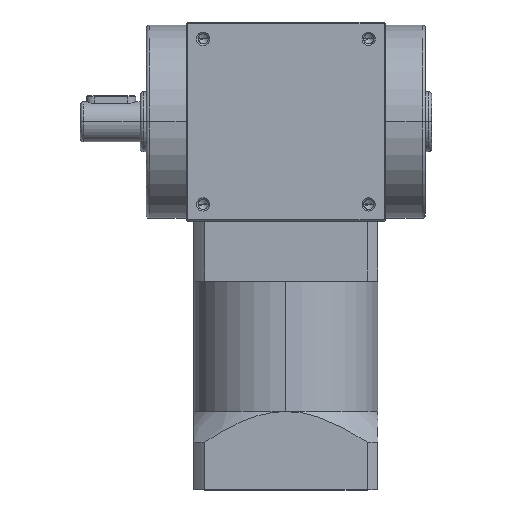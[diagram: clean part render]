
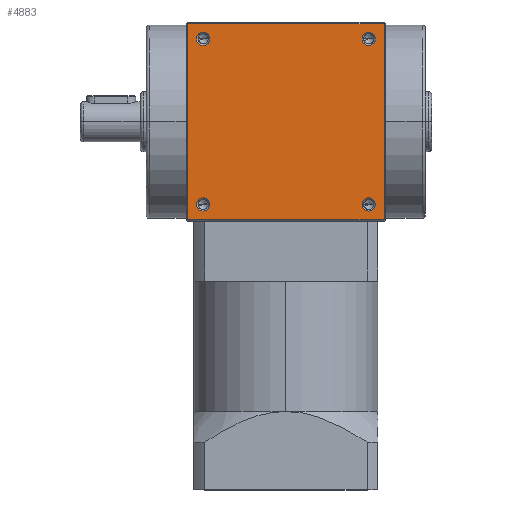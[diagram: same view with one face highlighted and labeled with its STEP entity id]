
A CAD part, top view. The second image highlights one B-rep face of the part: STEP entity #4883.
In plain terms, the highlighted planar face has unit normal (0, 0, 1).
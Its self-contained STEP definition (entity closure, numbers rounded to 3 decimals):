
#27 = VECTOR ( 'NONE', #2899, 1000. ) ;
#30 = VERTEX_POINT ( 'NONE', #4304 ) ;
#47 = ORIENTED_EDGE ( 'NONE', *, *, #918, .T. ) ;
#69 = DIRECTION ( 'NONE',  ( 0., 0., -1. ) ) ;
#98 = FACE_BOUND ( 'NONE', #6766, .T. ) ;
#160 = ORIENTED_EDGE ( 'NONE', *, *, #970, .T. ) ;
#177 = EDGE_LOOP ( 'NONE', ( #8125, #6206 ) ) ;
#236 = VERTEX_POINT ( 'NONE', #2188 ) ;
#259 = VERTEX_POINT ( 'NONE', #2804 ) ;
#307 = ORIENTED_EDGE ( 'NONE', *, *, #7501, .T. ) ;
#395 = CARTESIAN_POINT ( 'NONE',  ( -32., -32., 32.5 ) ) ;
#405 = CIRCLE ( 'NONE', #1392, 2.15 ) ;
#520 = CARTESIAN_POINT ( 'NONE',  ( -27., -27., 32.5 ) ) ;
#541 = EDGE_CURVE ( 'NONE', #4626, #6484, #4183, .T. ) ;
#704 = DIRECTION ( 'NONE',  ( -1., 0., 0. ) ) ;
#864 = CARTESIAN_POINT ( 'NONE',  ( -29.15, 27., 32.5 ) ) ;
#918 = EDGE_CURVE ( 'NONE', #259, #4297, #2163, .T. ) ;
#970 = EDGE_CURVE ( 'NONE', #3444, #9064, #1490, .T. ) ;
#990 = CIRCLE ( 'NONE', #7219, 2.15 ) ;
#1122 = LINE ( 'NONE', #5073, #7571 ) ;
#1159 = DIRECTION ( 'NONE',  ( 0., 0., -1. ) ) ;
#1292 = ORIENTED_EDGE ( 'NONE', *, *, #2593, .T. ) ;
#1392 = AXIS2_PLACEMENT_3D ( 'NONE', #2172, #69, #5076 ) ;
#1408 = CARTESIAN_POINT ( 'NONE',  ( 0., 32., 32.5 ) ) ;
#1410 = EDGE_CURVE ( 'NONE', #9064, #3444, #9364, .T. ) ;
#1487 = PLANE ( 'NONE',  #4543 ) ;
#1490 = CIRCLE ( 'NONE', #2907, 2.15 ) ;
#1552 = LINE ( 'NONE', #6611, #5014 ) ;
#1609 = ORIENTED_EDGE ( 'NONE', *, *, #5226, .T. ) ;
#1614 = VECTOR ( 'NONE', #8889, 1000. ) ;
#1972 = DIRECTION ( 'NONE',  ( 0., 0., -1. ) ) ;
#2002 = DIRECTION ( 'NONE',  ( -1., 0., 0. ) ) ;
#2124 = DIRECTION ( 'NONE',  ( 0., 0., -1. ) ) ;
#2144 = VERTEX_POINT ( 'NONE', #2271 ) ;
#2163 = LINE ( 'NONE', #1408, #27 ) ;
#2172 = CARTESIAN_POINT ( 'NONE',  ( -27., -27., 32.5 ) ) ;
#2188 = CARTESIAN_POINT ( 'NONE',  ( -29.15, -27., 32.5 ) ) ;
#2219 = FACE_BOUND ( 'NONE', #177, .T. ) ;
#2271 = CARTESIAN_POINT ( 'NONE',  ( 32., -32., 32.5 ) ) ;
#2593 = EDGE_CURVE ( 'NONE', #3849, #236, #405, .T. ) ;
#2608 = DIRECTION ( 'NONE',  ( 0., 0., -1. ) ) ;
#2804 = CARTESIAN_POINT ( 'NONE',  ( 32., 32., 32.5 ) ) ;
#2880 = CARTESIAN_POINT ( 'NONE',  ( 0., 0., 32.5 ) ) ;
#2899 = DIRECTION ( 'NONE',  ( -1., 0., 0. ) ) ;
#2907 = AXIS2_PLACEMENT_3D ( 'NONE', #7832, #2124, #704 ) ;
#2977 = CARTESIAN_POINT ( 'NONE',  ( -27., 27., 32.5 ) ) ;
#3169 = CARTESIAN_POINT ( 'NONE',  ( 24.85, -27., 32.5 ) ) ;
#3194 = CARTESIAN_POINT ( 'NONE',  ( 27., 27., 32.5 ) ) ;
#3198 = DIRECTION ( 'NONE',  ( 0., 0., -1. ) ) ;
#3251 = DIRECTION ( 'NONE',  ( -1., 0., 0. ) ) ;
#3444 = VERTEX_POINT ( 'NONE', #864 ) ;
#3666 = DIRECTION ( 'NONE',  ( 0., 0., -1. ) ) ;
#3849 = VERTEX_POINT ( 'NONE', #7448 ) ;
#3919 = CARTESIAN_POINT ( 'NONE',  ( 29.15, -27., 32.5 ) ) ;
#3943 = DIRECTION ( 'NONE',  ( 0., 0., -1. ) ) ;
#3962 = EDGE_CURVE ( 'NONE', #30, #6295, #6762, .T. ) ;
#4055 = LINE ( 'NONE', #7869, #1614 ) ;
#4094 = AXIS2_PLACEMENT_3D ( 'NONE', #3194, #3943, #6147 ) ;
#4183 = CIRCLE ( 'NONE', #7988, 2.15 ) ;
#4242 = CARTESIAN_POINT ( 'NONE',  ( 29.15, 27., 32.5 ) ) ;
#4297 = VERTEX_POINT ( 'NONE', #8060 ) ;
#4304 = CARTESIAN_POINT ( 'NONE',  ( 24.85, 27., 32.5 ) ) ;
#4543 = AXIS2_PLACEMENT_3D ( 'NONE', #2880, #3666, #8731 ) ;
#4626 = VERTEX_POINT ( 'NONE', #3919 ) ;
#4701 = EDGE_LOOP ( 'NONE', ( #7461, #7698, #1609, #47 ) ) ;
#4883 = ADVANCED_FACE ( 'NONE', ( #7643, #98, #2219, #7544, #5594 ), #1487, .F. ) ;
#4900 = ORIENTED_EDGE ( 'NONE', *, *, #8890, .T. ) ;
#5014 = VECTOR ( 'NONE', #8865, 1000. ) ;
#5073 = CARTESIAN_POINT ( 'NONE',  ( 32., 0., 32.5 ) ) ;
#5076 = DIRECTION ( 'NONE',  ( -1., 0., 0. ) ) ;
#5226 = EDGE_CURVE ( 'NONE', #2144, #259, #1122, .T. ) ;
#5549 = VERTEX_POINT ( 'NONE', #395 ) ;
#5594 = FACE_OUTER_BOUND ( 'NONE', #4701, .T. ) ;
#5613 = CARTESIAN_POINT ( 'NONE',  ( -24.85, 27., 32.5 ) ) ;
#5890 = AXIS2_PLACEMENT_3D ( 'NONE', #520, #1159, #2002 ) ;
#6031 = CARTESIAN_POINT ( 'NONE',  ( 27., -27., 32.5 ) ) ;
#6147 = DIRECTION ( 'NONE',  ( -1., 0., 0. ) ) ;
#6206 = ORIENTED_EDGE ( 'NONE', *, *, #3962, .T. ) ;
#6295 = VERTEX_POINT ( 'NONE', #4242 ) ;
#6449 = EDGE_CURVE ( 'NONE', #5549, #2144, #1552, .T. ) ;
#6484 = VERTEX_POINT ( 'NONE', #3169 ) ;
#6576 = EDGE_CURVE ( 'NONE', #6295, #30, #990, .T. ) ;
#6611 = CARTESIAN_POINT ( 'NONE',  ( 0., -32., 32.5 ) ) ;
#6641 = DIRECTION ( 'NONE',  ( -1., 0., 0. ) ) ;
#6712 = EDGE_CURVE ( 'NONE', #4297, #5549, #4055, .T. ) ;
#6762 = CIRCLE ( 'NONE', #4094, 2.15 ) ;
#6766 = EDGE_LOOP ( 'NONE', ( #1292, #4900 ) ) ;
#6899 = EDGE_LOOP ( 'NONE', ( #7254, #307 ) ) ;
#6980 = DIRECTION ( 'NONE',  ( -1., 0., 0. ) ) ;
#7148 = AXIS2_PLACEMENT_3D ( 'NONE', #2977, #7365, #6641 ) ;
#7219 = AXIS2_PLACEMENT_3D ( 'NONE', #7652, #2608, #3251 ) ;
#7254 = ORIENTED_EDGE ( 'NONE', *, *, #541, .T. ) ;
#7365 = DIRECTION ( 'NONE',  ( 0., 0., -1. ) ) ;
#7448 = CARTESIAN_POINT ( 'NONE',  ( -24.85, -27., 32.5 ) ) ;
#7461 = ORIENTED_EDGE ( 'NONE', *, *, #6712, .T. ) ;
#7501 = EDGE_CURVE ( 'NONE', #6484, #4626, #8185, .T. ) ;
#7544 = FACE_BOUND ( 'NONE', #7803, .T. ) ;
#7571 = VECTOR ( 'NONE', #8823, 1000. ) ;
#7643 = FACE_BOUND ( 'NONE', #6899, .T. ) ;
#7652 = CARTESIAN_POINT ( 'NONE',  ( 27., 27., 32.5 ) ) ;
#7698 = ORIENTED_EDGE ( 'NONE', *, *, #6449, .T. ) ;
#7803 = EDGE_LOOP ( 'NONE', ( #9149, #160 ) ) ;
#7832 = CARTESIAN_POINT ( 'NONE',  ( -27., 27., 32.5 ) ) ;
#7869 = CARTESIAN_POINT ( 'NONE',  ( -32., 0., 32.5 ) ) ;
#7988 = AXIS2_PLACEMENT_3D ( 'NONE', #9161, #1972, #6980 ) ;
#7995 = AXIS2_PLACEMENT_3D ( 'NONE', #6031, #3198, #8898 ) ;
#8060 = CARTESIAN_POINT ( 'NONE',  ( -32., 32., 32.5 ) ) ;
#8125 = ORIENTED_EDGE ( 'NONE', *, *, #6576, .T. ) ;
#8185 = CIRCLE ( 'NONE', #7995, 2.15 ) ;
#8731 = DIRECTION ( 'NONE',  ( -1., 0., 0. ) ) ;
#8823 = DIRECTION ( 'NONE',  ( 0., 1., 0. ) ) ;
#8865 = DIRECTION ( 'NONE',  ( 1., 0., 0. ) ) ;
#8889 = DIRECTION ( 'NONE',  ( 0., -1., 0. ) ) ;
#8890 = EDGE_CURVE ( 'NONE', #236, #3849, #9323, .T. ) ;
#8898 = DIRECTION ( 'NONE',  ( -1., 0., 0. ) ) ;
#9064 = VERTEX_POINT ( 'NONE', #5613 ) ;
#9149 = ORIENTED_EDGE ( 'NONE', *, *, #1410, .T. ) ;
#9161 = CARTESIAN_POINT ( 'NONE',  ( 27., -27., 32.5 ) ) ;
#9323 = CIRCLE ( 'NONE', #5890, 2.15 ) ;
#9364 = CIRCLE ( 'NONE', #7148, 2.15 ) ;
